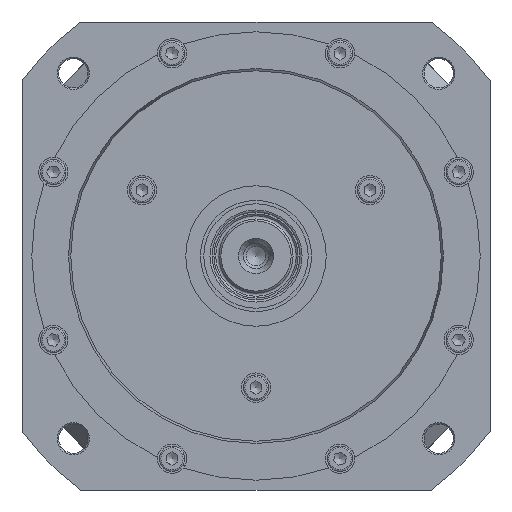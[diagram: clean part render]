
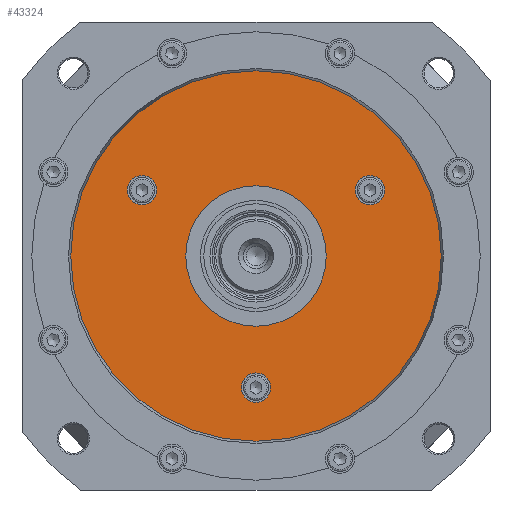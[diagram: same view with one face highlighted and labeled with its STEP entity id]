
A CAD part, left-side view. The second image highlights one B-rep face of the part: STEP entity #43324.
In plain terms, the highlighted planar face has unit normal (-1, 0, 0).
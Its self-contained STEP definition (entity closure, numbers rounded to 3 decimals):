
#957=FACE_BOUND('',#5884,.T.);
#958=FACE_BOUND('',#5885,.T.);
#959=FACE_BOUND('',#5886,.T.);
#960=FACE_BOUND('',#5887,.T.);
#2447=PLANE('',#46383);
#3412=FACE_OUTER_BOUND('',#5883,.T.);
#5883=EDGE_LOOP('',(#28589,#28590));
#5884=EDGE_LOOP('',(#28591,#28592));
#5885=EDGE_LOOP('',(#28593,#28594));
#5886=EDGE_LOOP('',(#28595,#28596));
#5887=EDGE_LOOP('',(#28597,#28598));
#8810=CIRCLE('',#46256,7.5);
#8811=CIRCLE('',#46257,7.5);
#8816=CIRCLE('',#46265,7.5);
#8817=CIRCLE('',#46266,7.5);
#8822=CIRCLE('',#46274,7.5);
#8823=CIRCLE('',#46275,7.5);
#8887=CIRCLE('',#46381,36.);
#8888=CIRCLE('',#46382,36.);
#8889=CIRCLE('',#46384,95.);
#8890=CIRCLE('',#46385,95.);
#16575=VERTEX_POINT('',#65435);
#16576=VERTEX_POINT('',#65436);
#16581=VERTEX_POINT('',#65452);
#16582=VERTEX_POINT('',#65453);
#16587=VERTEX_POINT('',#65469);
#16588=VERTEX_POINT('',#65470);
#16653=VERTEX_POINT('',#65677);
#16654=VERTEX_POINT('',#65679);
#16655=VERTEX_POINT('',#65683);
#16656=VERTEX_POINT('',#65684);
#21165=EDGE_CURVE('',#16575,#16576,#8810,.T.);
#21166=EDGE_CURVE('',#16576,#16575,#8811,.T.);
#21173=EDGE_CURVE('',#16581,#16582,#8816,.T.);
#21174=EDGE_CURVE('',#16582,#16581,#8817,.T.);
#21181=EDGE_CURVE('',#16587,#16588,#8822,.T.);
#21182=EDGE_CURVE('',#16588,#16587,#8823,.T.);
#21282=EDGE_CURVE('',#16654,#16653,#8887,.T.);
#21283=EDGE_CURVE('',#16653,#16654,#8888,.T.);
#21284=EDGE_CURVE('',#16655,#16656,#8889,.T.);
#21285=EDGE_CURVE('',#16656,#16655,#8890,.T.);
#28589=ORIENTED_EDGE('',*,*,#21284,.F.);
#28590=ORIENTED_EDGE('',*,*,#21285,.F.);
#28591=ORIENTED_EDGE('',*,*,#21165,.T.);
#28592=ORIENTED_EDGE('',*,*,#21166,.T.);
#28593=ORIENTED_EDGE('',*,*,#21173,.T.);
#28594=ORIENTED_EDGE('',*,*,#21174,.T.);
#28595=ORIENTED_EDGE('',*,*,#21181,.T.);
#28596=ORIENTED_EDGE('',*,*,#21182,.T.);
#28597=ORIENTED_EDGE('',*,*,#21282,.T.);
#28598=ORIENTED_EDGE('',*,*,#21283,.T.);
#43324=ADVANCED_FACE('',(#3412,#957,#958,#959,#960),#2447,.T.);
#46256=AXIS2_PLACEMENT_3D('',#65437,#52360,#52361);
#46257=AXIS2_PLACEMENT_3D('',#65438,#52362,#52363);
#46265=AXIS2_PLACEMENT_3D('',#65454,#52380,#52381);
#46266=AXIS2_PLACEMENT_3D('',#65455,#52382,#52383);
#46274=AXIS2_PLACEMENT_3D('',#65471,#52400,#52401);
#46275=AXIS2_PLACEMENT_3D('',#65472,#52402,#52403);
#46381=AXIS2_PLACEMENT_3D('',#65680,#52650,#52651);
#46382=AXIS2_PLACEMENT_3D('',#65681,#52652,#52653);
#46383=AXIS2_PLACEMENT_3D('',#65682,#52654,#52655);
#46384=AXIS2_PLACEMENT_3D('',#65685,#52656,#52657);
#46385=AXIS2_PLACEMENT_3D('',#65686,#52658,#52659);
#52360=DIRECTION('center_axis',(1.,0.,0.));
#52361=DIRECTION('ref_axis',(0.,-0.5,-0.866));
#52362=DIRECTION('center_axis',(1.,0.,0.));
#52363=DIRECTION('ref_axis',(0.,-0.5,-0.866));
#52380=DIRECTION('center_axis',(1.,0.,0.));
#52381=DIRECTION('ref_axis',(0.,-0.5,0.866));
#52382=DIRECTION('center_axis',(1.,0.,0.));
#52383=DIRECTION('ref_axis',(0.,-0.5,0.866));
#52400=DIRECTION('center_axis',(1.,0.,0.));
#52401=DIRECTION('ref_axis',(0.,1.,0.));
#52402=DIRECTION('center_axis',(1.,0.,0.));
#52403=DIRECTION('ref_axis',(0.,1.,0.));
#52650=DIRECTION('center_axis',(1.,0.,0.));
#52651=DIRECTION('ref_axis',(0.,1.,0.));
#52652=DIRECTION('center_axis',(1.,0.,0.));
#52653=DIRECTION('ref_axis',(0.,1.,0.));
#52654=DIRECTION('center_axis',(-1.,0.,0.));
#52655=DIRECTION('ref_axis',(0.,-1.,0.));
#52656=DIRECTION('center_axis',(1.,0.,0.));
#52657=DIRECTION('ref_axis',(0.,1.,0.));
#52658=DIRECTION('center_axis',(1.,0.,0.));
#52659=DIRECTION('ref_axis',(0.,1.,0.));
#65435=CARTESIAN_POINT('',(-253.9,-62.207,27.255));
#65436=CARTESIAN_POINT('',(-253.9,-54.707,40.245));
#65437=CARTESIAN_POINT('Origin',(-253.9,-58.457,33.75));
#65438=CARTESIAN_POINT('Origin',(-253.9,-58.457,33.75));
#65452=CARTESIAN_POINT('',(-253.9,54.707,40.245));
#65453=CARTESIAN_POINT('',(-253.9,62.207,27.255));
#65454=CARTESIAN_POINT('Origin',(-253.9,58.457,33.75));
#65455=CARTESIAN_POINT('Origin',(-253.9,58.457,33.75));
#65469=CARTESIAN_POINT('',(-253.9,7.5,-67.5));
#65470=CARTESIAN_POINT('',(-253.9,-7.5,-67.5));
#65471=CARTESIAN_POINT('Origin',(-253.9,0.,-67.5));
#65472=CARTESIAN_POINT('Origin',(-253.9,0.,-67.5));
#65677=CARTESIAN_POINT('',(-253.9,0.,-36.));
#65679=CARTESIAN_POINT('',(-253.9,0.,36.));
#65680=CARTESIAN_POINT('Origin',(-253.9,0.,0.));
#65681=CARTESIAN_POINT('Origin',(-253.9,0.,0.));
#65682=CARTESIAN_POINT('Origin',(-253.9,0.,95.));
#65683=CARTESIAN_POINT('',(-253.9,0.,95.));
#65684=CARTESIAN_POINT('',(-253.9,0.,-95.));
#65685=CARTESIAN_POINT('Origin',(-253.9,0.,0.));
#65686=CARTESIAN_POINT('Origin',(-253.9,0.,0.));
